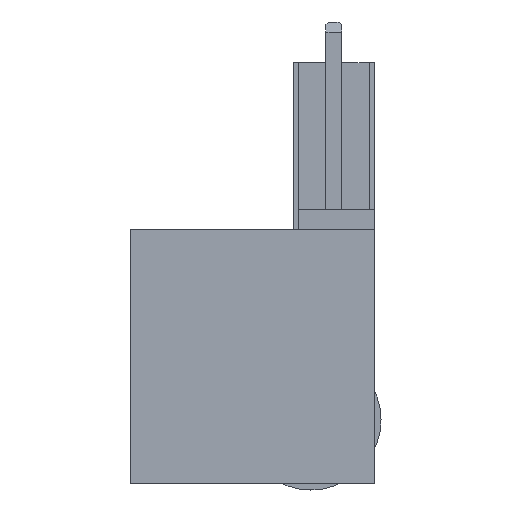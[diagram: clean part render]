
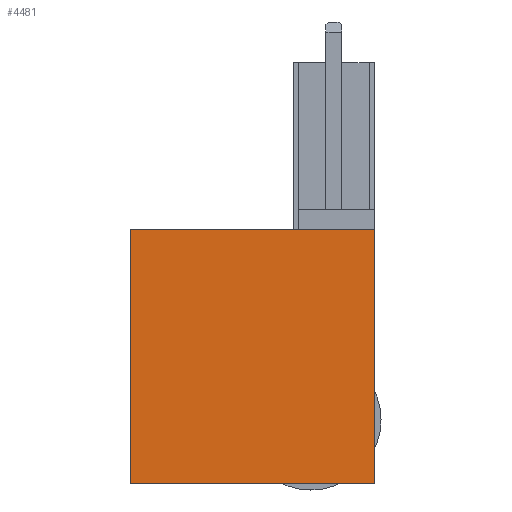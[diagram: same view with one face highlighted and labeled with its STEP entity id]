
A CAD part, left-side view. The second image highlights one B-rep face of the part: STEP entity #4481.
In plain terms, the highlighted planar face has unit normal (-1, 0, 0).
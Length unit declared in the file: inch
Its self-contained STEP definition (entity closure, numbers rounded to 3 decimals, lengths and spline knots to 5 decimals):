
#473=FACE_OUTER_BOUND('',#720,.T.);
#720=EDGE_LOOP('',(#3987,#3988,#3989,#3990));
#847=LINE('',#5757,#1319);
#856=LINE('',#5779,#1328);
#1219=LINE('',#7702,#1691);
#1220=LINE('',#7703,#1692);
#1319=VECTOR('',#4866,0.3937);
#1328=VECTOR('',#4891,0.3937);
#1691=VECTOR('',#5544,0.3937);
#1692=VECTOR('',#5545,0.3937);
#1764=VERTEX_POINT('',#5754);
#1765=VERTEX_POINT('',#5756);
#1770=VERTEX_POINT('',#5778);
#2113=VERTEX_POINT('',#7701);
#2215=EDGE_CURVE('',#1764,#1765,#847,.T.);
#2226=EDGE_CURVE('',#1770,#1765,#856,.T.);
#2744=EDGE_CURVE('',#2113,#1770,#1219,.T.);
#2745=EDGE_CURVE('',#2113,#1764,#1220,.T.);
#3987=ORIENTED_EDGE('',*,*,#2744,.T.);
#3988=ORIENTED_EDGE('',*,*,#2226,.T.);
#3989=ORIENTED_EDGE('',*,*,#2215,.F.);
#3990=ORIENTED_EDGE('',*,*,#2745,.F.);
#4160=PLANE('',#4692);
#4481=ADVANCED_FACE('',(#473),#4160,.T.);
#4692=AXIS2_PLACEMENT_3D('',#7700,#5542,#5543);
#4866=DIRECTION('',(0.,0.,1.));
#4891=DIRECTION('',(0.,1.,0.));
#5542=DIRECTION('center_axis',(-1.,0.,0.));
#5543=DIRECTION('ref_axis',(0.,0.,1.));
#5544=DIRECTION('',(0.,0.,1.));
#5545=DIRECTION('',(0.,1.,0.));
#5754=CARTESIAN_POINT('',(0.,0.48,-0.5));
#5756=CARTESIAN_POINT('',(0.,0.48,0.));
#5757=CARTESIAN_POINT('',(0.,0.48,-0.5));
#5778=CARTESIAN_POINT('',(0.,0.,0.));
#5779=CARTESIAN_POINT('',(0.,0.,0.));
#7700=CARTESIAN_POINT('Origin',(0.,0.,-0.5));
#7701=CARTESIAN_POINT('',(0.,0.,-0.5));
#7702=CARTESIAN_POINT('',(0.,0.,-0.5));
#7703=CARTESIAN_POINT('',(0.,0.,-0.5));
